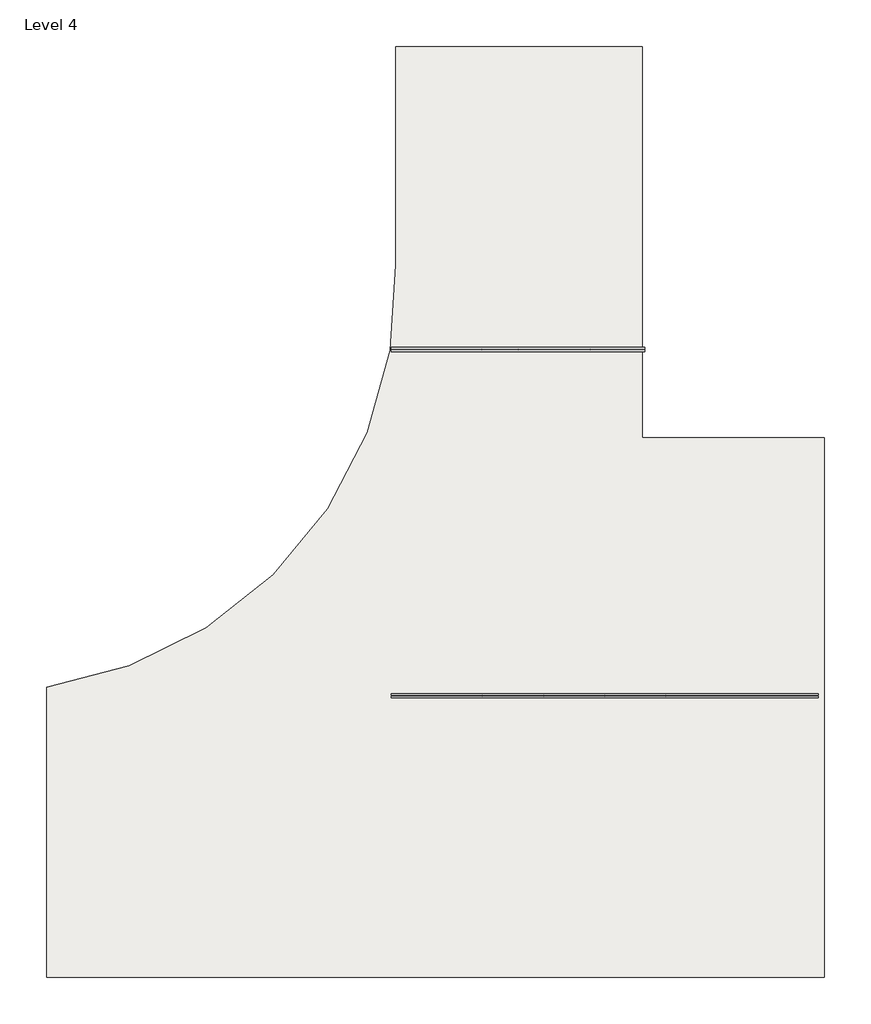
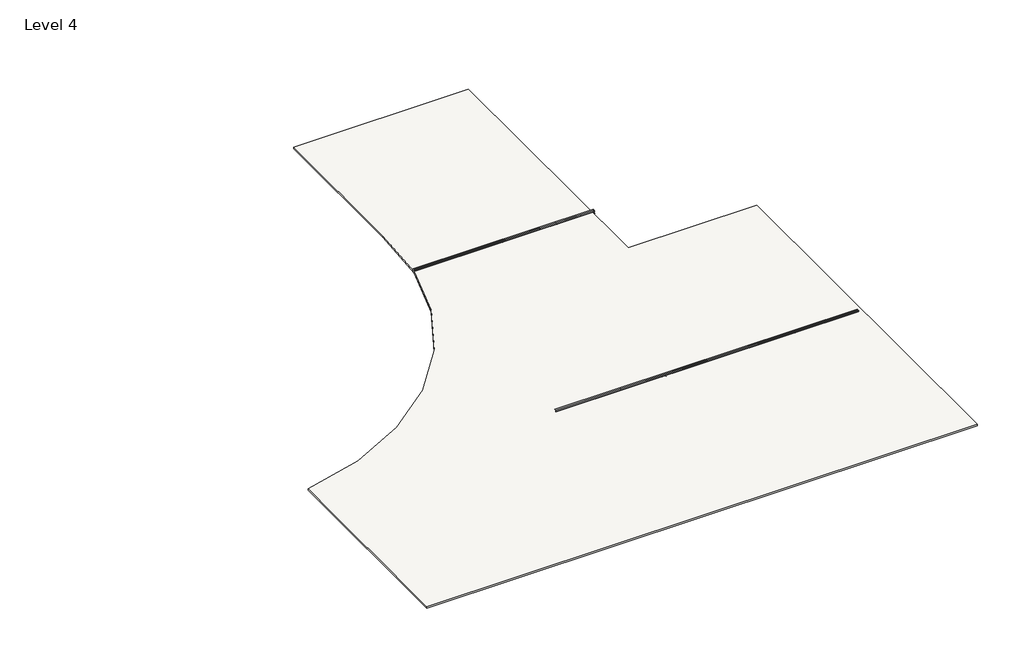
# One storey, incomplete: 2 beams, 1 slab.
"""IFC4 building model written with IfcOpenShell, lengths in millimetres."""

from ifc_helpers import new_model, si_unit, point, frame, frame_2d, origin, place, context, project, spatial, polyline, circle_curve, trimmed, segment, composite_curve, outline, extrude, transform, mapped, element, save
from components import k_series_bar_joist_rod_web_12k1_97b3de8a, k_series_bar_joist_rod_web_20k4_d2b6970e

model = new_model("IFC4")

# Units and contexts
model_context = context("Model", 3, world=origin())
ifc_project = project(units=[si_unit("LENGTHUNIT", "METRE", prefix="MILLI")], contexts=[model_context])

# Site, building, storey
site = spatial("IfcSite", under=ifc_project)
building = spatial("IfcBuilding", under=site)
storey = spatial("IfcBuildingStorey", under=building, Name="Level 4", Elevation=55778.0)

# Beams
placement = place(None, origin())
k_series_bar_joist_rod_web_12k1_shape = k_series_bar_joist_rod_web_12k1_97b3de8a(model_context)
element("IfcBeam", 1, ObjectType="K-Series Bar Joist-Rod Web : 12K1", at=placement, inside=storey, context=model_context, shape_type="MappedRepresentation", body=[
    mapped(k_series_bar_joist_rod_web_12k1_shape, transform((-2062.4417239, 2571.4992317, 55625.6), x_axis=(1.0, 0.0, 0.0), y_axis=(0.0, 1.0, 0.0), z_axis=(0.0, 0.0, 1.0))),
])
k_series_bar_joist_rod_web_20k4_shape = k_series_bar_joist_rod_web_20k4_d2b6970e(model_context)
element("IfcBeam", 2, ObjectType="K-Series Bar Joist-Rod Web : 20K4", at=placement, inside=storey, context=model_context, shape_type="MappedRepresentation", body=[
    mapped(k_series_bar_joist_rod_web_20k4_shape, transform((-614.6417239, -3219.7007683, 55524.0), x_axis=(1.0, 0.0, 0.0), y_axis=(0.0, 1.0, 0.0), z_axis=(0.0, 0.0, 1.0))),
])

# Slab
element("IfcSlab", 3, ObjectType="1 1/2\" Metal Roof Deck", at=placement, inside=storey, context=model_context, shape_type="SweptSolid", body=[
    extrude(outline(composite_curve([segment(polyline([(16.1686928, 7642.9501138), (16.1686928, 1100.7640027), (3061.2686928, 1100.7640027), (3061.2686928, -7932.6498862), (-9951.8313072, -7932.6498862), (-9951.8313072, -3075.8498862)]), True, "CONTINUOUS"), segment(trimmed(circle_curve(frame_2d((-10958.1943375, 3703.8303973)), 6853.9646407), [point((-9951.8313072, -3075.8498862))], [point((-4110.1063072, 3987.5937235))], True, "CARTESIAN"), True, "CONTINUOUS"), segment(polyline([(-4110.1063072, 3987.5937235), (-4110.1063072, 7642.9501138), (16.1686928, 7642.9501138)]), True, "CONTINUOUS")], self_intersect=False)), frame((0.0, 0.0, 55702.2), z_axis=(0.0, 0.0, 1.0), x_axis=(1.0, 0.0, 0.0)), (0.0, 0.0, 1.0), 38.1),
])

save(model, "model.ifc")
